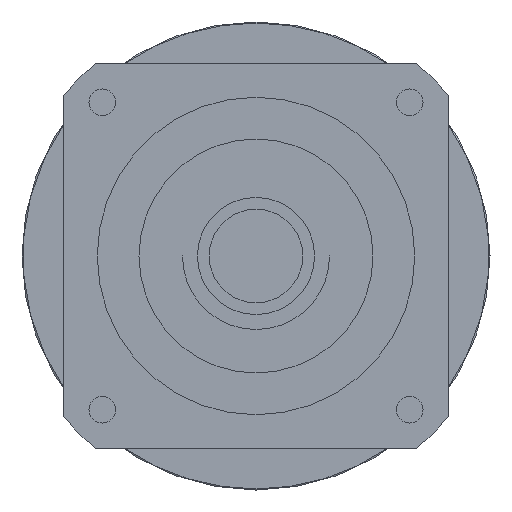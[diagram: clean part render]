
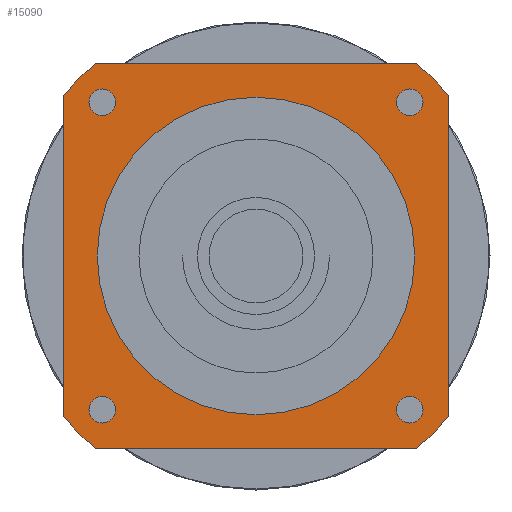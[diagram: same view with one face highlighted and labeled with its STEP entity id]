
A CAD part, left-side view. The second image highlights one B-rep face of the part: STEP entity #15090.
In plain terms, the highlighted planar face has unit normal (-1, 0, 0) as drawn and (0, 0, -1) by its records, which use the part's own axes.
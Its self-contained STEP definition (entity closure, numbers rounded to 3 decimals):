
#10150=CARTESIAN_POINT('',(57.5,-48.153,-84.7));
#10160=VERTEX_POINT('',#10150);
#10210=CARTESIAN_POINT('',(0.,0.,
-84.7));
#10220=DIRECTION('',(0.,0.,-1.));
#10230=DIRECTION('',(1.,0.,0.));
#10240=AXIS2_PLACEMENT_3D('',#10210,#10220,#10230);
#10250=CIRCLE('',#10240,75.);
#10260=CARTESIAN_POINT('',(48.153,-57.5,-84.7));
#10270=VERTEX_POINT('',#10260);
#10280=EDGE_CURVE('',#10160,#10270,#10250,.T.);
#13180=CARTESIAN_POINT('',(57.5,48.153,-84.7));
#13190=VERTEX_POINT('',#13180);
#13220=CARTESIAN_POINT('',(57.5,57.5,-84.7));
#13230=DIRECTION('',(0.,-1.,0.));
#13240=VECTOR('',#13230,1000.);
#13250=LINE('',#13220,#13240);
#13260=EDGE_CURVE('',#13190,#10160,#13250,.T.);
#13420=CARTESIAN_POINT('',(48.153,57.5,-84.7));
#13430=VERTEX_POINT('',#13420);
#13460=CARTESIAN_POINT('',(0.,0.,
-84.7));
#13470=DIRECTION('',(0.,0.,-1.));
#13480=DIRECTION('',(1.,0.,0.));
#13490=AXIS2_PLACEMENT_3D('',#13460,#13470,#13480);
#13500=CIRCLE('',#13490,75.);
#13510=EDGE_CURVE('',#13430,#13190,#13500,.T.);
#13670=CARTESIAN_POINT('',(-48.153,-57.5,-84.7));
#13680=VERTEX_POINT('',#13670);
#13710=CARTESIAN_POINT('',(0.,0.,
-84.7));
#13720=DIRECTION('',(0.,0.,-1.));
#13730=DIRECTION('',(1.,0.,0.));
#13740=AXIS2_PLACEMENT_3D('',#13710,#13720,#13730);
#13750=CIRCLE('',#13740,75.);
#13760=CARTESIAN_POINT('',(-57.5,-48.153,-84.7));
#13770=VERTEX_POINT('',#13760);
#13780=EDGE_CURVE('',#13680,#13770,#13750,.T.);
#13900=CARTESIAN_POINT('',(57.5,57.5,-84.7));
#13910=DIRECTION('',(0.,0.,-1.));
#13920=DIRECTION('',(1.,0.,0.));
#13930=AXIS2_PLACEMENT_3D('',#13900,#13910,#13920);
#13940=PLANE('',#13930);
#13950=CARTESIAN_POINT('',(-45.962,45.962,-84.7));
#13960=DIRECTION('',(0.,0.,-1.));
#13970=DIRECTION('',(-1.,0.,0.));
#13980=AXIS2_PLACEMENT_3D('',#13950,#13960,#13970);
#13990=CIRCLE('',#13980,4.);
#14000=CARTESIAN_POINT('',(-49.962,45.962,-84.7));
#14010=VERTEX_POINT('',#14000);
#14020=CARTESIAN_POINT('',(-41.962,45.962,-84.7));
#14030=VERTEX_POINT('',#14020);
#14040=EDGE_CURVE('',#14010,#14030,#13990,.T.);
#14050=ORIENTED_EDGE('',*,*,#14040,.F.);
#14060=EDGE_CURVE('',#14030,#14010,#13990,.T.);
#14070=ORIENTED_EDGE('',*,*,#14060,.F.);
#14080=EDGE_LOOP('',(#14070,#14050));
#14090=FACE_BOUND('',#14080,.T.);
#14100=CARTESIAN_POINT('',(45.962,45.962,-84.7));
#14110=DIRECTION('',(0.,0.,-1.));
#14120=DIRECTION('',(0.,1.,0.));
#14130=AXIS2_PLACEMENT_3D('',#14100,#14110,#14120);
#14140=CIRCLE('',#14130,4.);
#14150=CARTESIAN_POINT('',(45.962,49.962,-84.7));
#14160=VERTEX_POINT('',#14150);
#14170=CARTESIAN_POINT('',(45.962,41.962,-84.7));
#14180=VERTEX_POINT('',#14170);
#14190=EDGE_CURVE('',#14160,#14180,#14140,.T.);
#14200=ORIENTED_EDGE('',*,*,#14190,.F.);
#14210=EDGE_CURVE('',#14180,#14160,#14140,.T.);
#14220=ORIENTED_EDGE('',*,*,#14210,.F.);
#14230=EDGE_LOOP('',(#14220,#14200));
#14240=FACE_BOUND('',#14230,.T.);
#14250=CARTESIAN_POINT('',(0.,0.,
-84.7));
#14260=DIRECTION('',(0.,0.,1.));
#14270=DIRECTION('',(0.,1.,0.));
#14280=AXIS2_PLACEMENT_3D('',#14250,#14260,#14270);
#14290=CIRCLE('',#14280,47.5);
#14300=CARTESIAN_POINT('',(-47.5,0.,-84.7));
#14310=VERTEX_POINT('',#14300);
#14320=CARTESIAN_POINT('',(47.5,0.,-84.7));
#14330=VERTEX_POINT('',#14320);
#14340=EDGE_CURVE('',#14310,#14330,#14290,.T.);
#14350=ORIENTED_EDGE('',*,*,#14340,.T.);
#14360=CARTESIAN_POINT('',(0.,47.5,-84.7));
#14370=VERTEX_POINT('',#14360);
#14380=EDGE_CURVE('',#14370,#14310,#14290,.T.);
#14390=ORIENTED_EDGE('',*,*,#14380,.T.);
#14400=EDGE_CURVE('',#14330,#14370,#14290,.T.);
#14410=ORIENTED_EDGE('',*,*,#14400,.T.);
#14420=EDGE_LOOP('',(#14410,#14390,#14350));
#14430=FACE_BOUND('',#14420,.T.);
#14440=CARTESIAN_POINT('',(45.962,-45.962,-84.7));
#14450=DIRECTION('',(0.,0.,-1.));
#14460=DIRECTION('',(1.,0.,0.));
#14470=AXIS2_PLACEMENT_3D('',#14440,#14450,#14460);
#14480=CIRCLE('',#14470,4.);
#14490=CARTESIAN_POINT('',(49.962,-45.962,-84.7));
#14500=VERTEX_POINT('',#14490);
#14510=CARTESIAN_POINT('',(41.962,-45.962,-84.7));
#14520=VERTEX_POINT('',#14510);
#14530=EDGE_CURVE('',#14500,#14520,#14480,.T.);
#14540=ORIENTED_EDGE('',*,*,#14530,.F.);
#14550=EDGE_CURVE('',#14520,#14500,#14480,.T.);
#14560=ORIENTED_EDGE('',*,*,#14550,.F.);
#14570=EDGE_LOOP('',(#14560,#14540));
#14580=FACE_BOUND('',#14570,.T.);
#14590=CARTESIAN_POINT('',(-45.962,-45.962,-84.7));
#14600=DIRECTION('',(0.,0.,-1.));
#14610=DIRECTION('',(0.,-1.,0.));
#14620=AXIS2_PLACEMENT_3D('',#14590,#14600,#14610);
#14630=CIRCLE('',#14620,4.);
#14640=CARTESIAN_POINT('',(-45.962,-49.962,-84.7));
#14650=VERTEX_POINT('',#14640);
#14660=CARTESIAN_POINT('',(-45.962,-41.962,-84.7));
#14670=VERTEX_POINT('',#14660);
#14680=EDGE_CURVE('',#14650,#14670,#14630,.T.);
#14690=ORIENTED_EDGE('',*,*,#14680,.F.);
#14700=EDGE_CURVE('',#14670,#14650,#14630,.T.);
#14710=ORIENTED_EDGE('',*,*,#14700,.F.);
#14720=EDGE_LOOP('',(#14710,#14690));
#14730=FACE_BOUND('',#14720,.T.);
#14740=CARTESIAN_POINT('',(-57.5,57.5,-84.7));
#14750=DIRECTION('',(1.,0.,0.));
#14760=VECTOR('',#14750,1000.);
#14770=LINE('',#14740,#14760);
#14780=CARTESIAN_POINT('',(-48.153,57.5,-84.7));
#14790=VERTEX_POINT('',#14780);
#14800=EDGE_CURVE('',#14790,#13430,#14770,.T.);
#14810=ORIENTED_EDGE('',*,*,#14800,.T.);
#14820=CARTESIAN_POINT('',(0.,0.,
-84.7));
#14830=DIRECTION('',(0.,0.,-1.));
#14840=DIRECTION('',(1.,0.,0.));
#14850=AXIS2_PLACEMENT_3D('',#14820,#14830,#14840);
#14860=CIRCLE('',#14850,75.);
#14870=CARTESIAN_POINT('',(-57.5,48.153,-84.7));
#14880=VERTEX_POINT('',#14870);
#14890=EDGE_CURVE('',#14880,#14790,#14860,.T.);
#14900=ORIENTED_EDGE('',*,*,#14890,.T.);
#14910=CARTESIAN_POINT('',(-57.5,-57.5,-84.7));
#14920=DIRECTION('',(0.,1.,0.));
#14930=VECTOR('',#14920,1000.);
#14940=LINE('',#14910,#14930);
#14950=EDGE_CURVE('',#13770,#14880,#14940,.T.);
#14960=ORIENTED_EDGE('',*,*,#14950,.T.);
#14970=ORIENTED_EDGE('',*,*,#13780,.T.);
#14980=CARTESIAN_POINT('',(57.5,-57.5,-84.7));
#14990=DIRECTION('',(-1.,0.,0.));
#15000=VECTOR('',#14990,1000.);
#15010=LINE('',#14980,#15000);
#15020=EDGE_CURVE('',#10270,#13680,#15010,.T.);
#15030=ORIENTED_EDGE('',*,*,#15020,.T.);
#15040=ORIENTED_EDGE('',*,*,#10280,.T.);
#15050=ORIENTED_EDGE('',*,*,#13260,.T.);
#15060=ORIENTED_EDGE('',*,*,#13510,.T.);
#15070=EDGE_LOOP('',(#15060,#15050,#15040,#15030,#14970,#14960,#14900,
#14810));
#15080=FACE_OUTER_BOUND('',#15070,.T.);
#15090=ADVANCED_FACE('',(#14090,#14240,#14430,#14580,#14730,#15080),
#13940,.T.);
